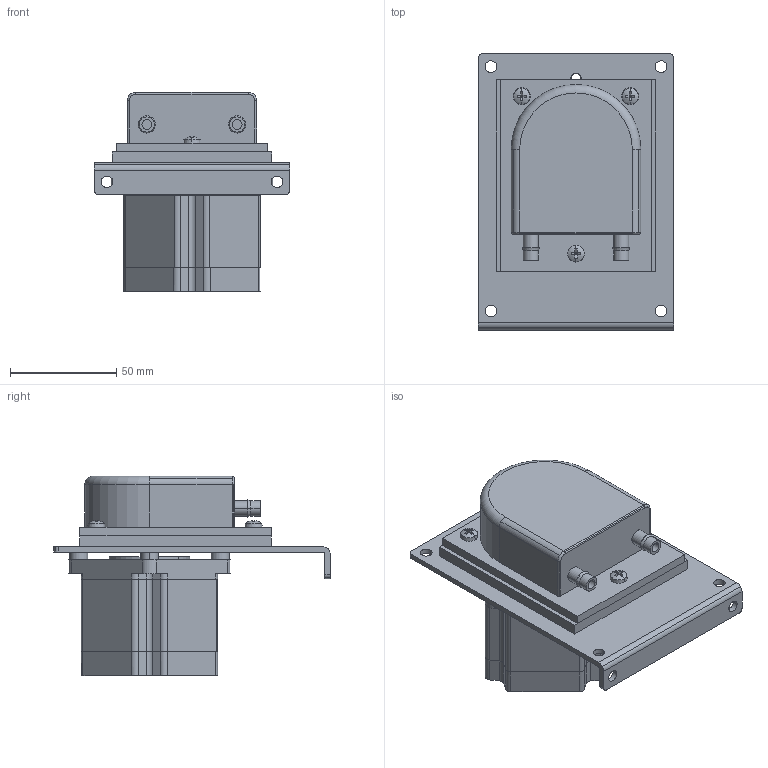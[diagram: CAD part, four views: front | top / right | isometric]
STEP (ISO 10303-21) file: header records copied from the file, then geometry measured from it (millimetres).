
FILE_DESCRIPTION(('STEP AP214'),'1');
FILE_NAME('W:/Williamsons Data/WMC/3D Files/3D Step files/tmp0.STEP','2015-08-11T11:00:56',(' '),(' '),'Spatial InterOp 3D',' ',' ');
FILE_SCHEMA(('automotive_design'));
Length unit declared in the file: millimetre
Products named in the file (10): 1; Corte-Revolu__o1; 2; 3; 4; 5; 6; 7; 8; 9
Bounding box: 92 x 130 x 93.92 mm (x, y, z)
Volume: 344928.6 mm3; surface area: 90872.2 mm2
Topology: 10 solids, 13 shells, 323 faces, 807 edges, 526 vertices
Faces by surface type: cylinder 141, plane 141, cone 26, torus 9, sphere 6
Entity records: 12646 total; most frequent: DIRECTION 1852, CARTESIAN_POINT 1666, ORIENTED_EDGE 1614, EDGE_CURVE 807, AXIS2_PLACEMENT_3D 712, VERTEX_POINT 526, LINE 428, VECTOR 428
